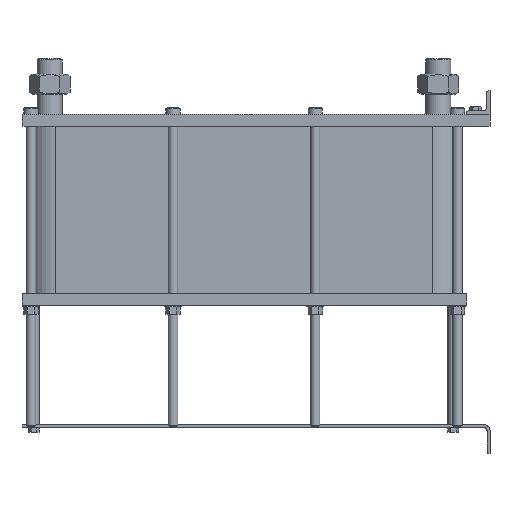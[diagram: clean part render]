
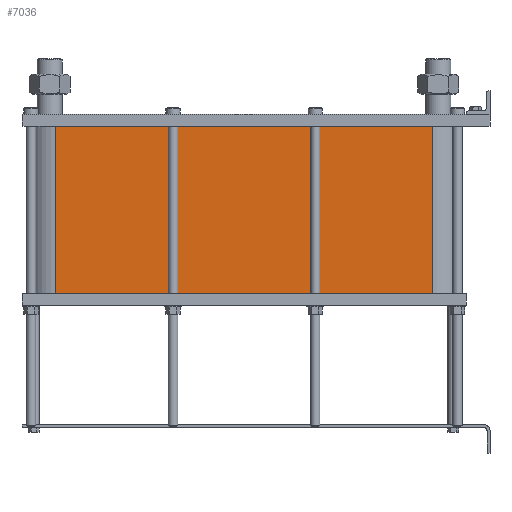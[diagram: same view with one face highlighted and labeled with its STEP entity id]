
A CAD part, left-side view. The second image highlights one B-rep face of the part: STEP entity #7036.
In plain terms, the highlighted planar face has unit normal (-1, 0, 0).
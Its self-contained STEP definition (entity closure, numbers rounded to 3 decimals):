
#999=LINE('',#15640,#1553);
#1031=LINE('',#15723,#1585);
#1032=LINE('',#15726,#1586);
#1033=LINE('',#15727,#1587);
#1553=VECTOR('',#9658,10.);
#1585=VECTOR('',#9736,10.);
#1586=VECTOR('',#9741,10.);
#1587=VECTOR('',#9742,10.);
#2117=FACE_OUTER_BOUND('',#2671,.T.);
#2671=EDGE_LOOP('',(#6246,#6247,#6248,#6249));
#3527=VERTEX_POINT('',#15634);
#3529=VERTEX_POINT('',#15638);
#3556=VERTEX_POINT('',#15720);
#3557=VERTEX_POINT('',#15722);
#4425=EDGE_CURVE('',#3529,#3527,#999,.T.);
#4466=EDGE_CURVE('',#3557,#3556,#1031,.T.);
#4468=EDGE_CURVE('',#3527,#3556,#1032,.T.);
#4469=EDGE_CURVE('',#3557,#3529,#1033,.T.);
#6246=ORIENTED_EDGE('',*,*,#4468,.F.);
#6247=ORIENTED_EDGE('',*,*,#4425,.F.);
#6248=ORIENTED_EDGE('',*,*,#4469,.F.);
#6249=ORIENTED_EDGE('',*,*,#4466,.T.);
#6608=PLANE('',#7812);
#7036=ADVANCED_FACE('',(#2117),#6608,.T.);
#7812=AXIS2_PLACEMENT_3D('',#15725,#9739,#9740);
#9658=DIRECTION('',(0.,0.,-1.));
#9736=DIRECTION('',(0.,0.,-1.));
#9739=DIRECTION('center_axis',(-1.,0.,0.));
#9740=DIRECTION('ref_axis',(0.,1.,0.));
#9741=DIRECTION('',(0.,1.,0.));
#9742=DIRECTION('',(0.,-1.,0.));
#15634=CARTESIAN_POINT('',(-72.,97.5,-282.1));
#15638=CARTESIAN_POINT('',(-72.,97.5,0.));
#15640=CARTESIAN_POINT('',(-72.,97.5,0.));
#15720=CARTESIAN_POINT('',(-72.,733.5,-282.1));
#15722=CARTESIAN_POINT('',(-72.,733.5,0.));
#15723=CARTESIAN_POINT('',(-72.,733.5,0.));
#15725=CARTESIAN_POINT('Origin',(-72.,97.5,0.));
#15726=CARTESIAN_POINT('',(-72.,256.5,-282.1));
#15727=CARTESIAN_POINT('',(-72.,733.5,0.));
